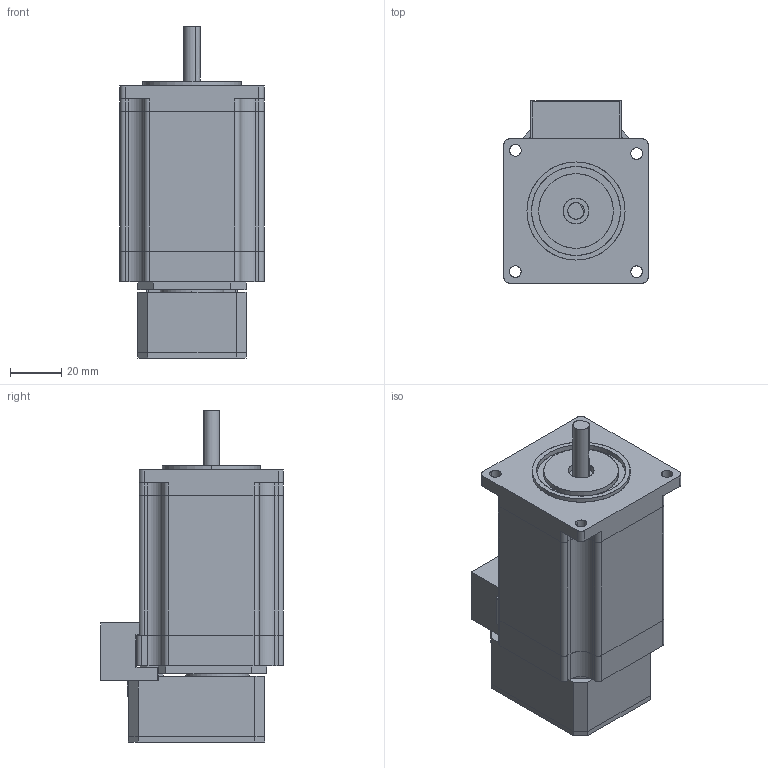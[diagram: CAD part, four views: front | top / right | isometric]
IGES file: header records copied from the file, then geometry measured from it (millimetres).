
Start section: SolidWorks IGES file using analytic representation for surfaces
Global section: file name: C:\Documents and Settings\Mark\My Documents\Myostat\Assemblies\CM1\CM1-X-23X\CM1-X-23L.IGS; native system: SolidWorks 2005 by SolidWorks Corporation; preprocessor: SolidWorks 2005 by SolidWorks Corporation; author: Mark; date: 060830.105333; units: millimetre
Bounding box: 56.02 x 71.02 x 129 mm (x, y, z)
Surface area: 66050.1 mm2 (no closed solid volume)
Topology: 0 solids, 0 shells, 748 faces, 7213 edges, 7213 vertices
Faces by surface type: bspline 577, revolution 171
